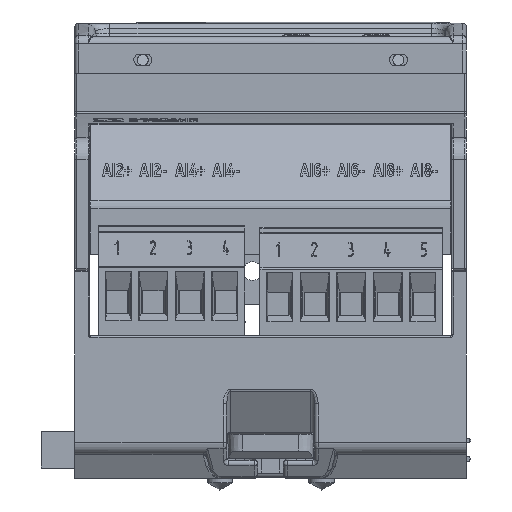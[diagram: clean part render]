
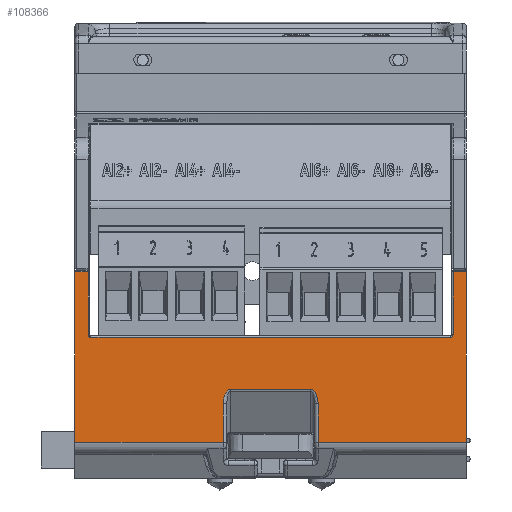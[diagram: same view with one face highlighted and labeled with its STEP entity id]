
A CAD part, front view. The second image highlights one B-rep face of the part: STEP entity #108366.
In plain terms, the highlighted planar face has unit normal (0, -1, 0).
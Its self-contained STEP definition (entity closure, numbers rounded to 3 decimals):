
#324 = CARTESIAN_POINT ( 'NONE',  ( 5.5, -56., -16.304 ) ) ;
#984 = CARTESIAN_POINT ( 'NONE',  ( -24.6, -56., -9.2 ) ) ;
#1779 = VERTEX_POINT ( 'NONE', #61976 ) ;
#2774 = LINE ( 'NONE', #150268, #117326 ) ;
#3222 = CARTESIAN_POINT ( 'NONE',  ( -26.8, -56., -23.574 ) ) ;
#3715 = CARTESIAN_POINT ( 'NONE',  ( 6.5, -56., 0. ) ) ;
#4629 = EDGE_CURVE ( 'NONE', #61108, #125118, #80584, .T. ) ;
#6344 = EDGE_CURVE ( 'NONE', #61108, #130030, #35579, .T. ) ;
#8492 = ORIENTED_EDGE ( 'NONE', *, *, #6344, .T. ) ;
#9884 = LINE ( 'NONE', #123537, #37713 ) ;
#12296 = VECTOR ( 'NONE', #140617, 1000. ) ;
#13818 = DIRECTION ( 'NONE',  ( 0., -1., 0. ) ) ;
#14090 = DIRECTION ( 'NONE',  ( 0., 0., -1. ) ) ;
#14570 = ORIENTED_EDGE ( 'NONE', *, *, #78349, .T. ) ;
#15312 = ORIENTED_EDGE ( 'NONE', *, *, #45716, .F. ) ;
#17577 = VECTOR ( 'NONE', #132928, 1000. ) ;
#19153 = CARTESIAN_POINT ( 'NONE',  ( -26.8, -56., -23.574 ) ) ;
#19378 = LINE ( 'NONE', #34671, #17577 ) ;
#19639 = LINE ( 'NONE', #125048, #128846 ) ;
#20397 = VECTOR ( 'NONE', #99365, 1000. ) ;
#27157 = LINE ( 'NONE', #134036, #56790 ) ;
#28576 = CARTESIAN_POINT ( 'NONE',  ( -6.5, -56., -23.574 ) ) ;
#29162 = DIRECTION ( 'NONE',  ( 0., 0., 1. ) ) ;
#29641 = CARTESIAN_POINT ( 'NONE',  ( 6.5, -56., -18.304 ) ) ;
#29775 = CARTESIAN_POINT ( 'NONE',  ( -26.8, -56., -23.574 ) ) ;
#31872 = LINE ( 'NONE', #3715, #122500 ) ;
#33827 = ORIENTED_EDGE ( 'NONE', *, *, #43273, .T. ) ;
#34671 = CARTESIAN_POINT ( 'NONE',  ( 26.8, -56., 0. ) ) ;
#35579 = LINE ( 'NONE', #3222, #61517 ) ;
#35714 = CARTESIAN_POINT ( 'NONE',  ( -26.8, -56., 0. ) ) ;
#36617 = DIRECTION ( 'NONE',  ( 0., 0., 1. ) ) ;
#37065 =( BOUNDED_CURVE ( )  B_SPLINE_CURVE ( 3, ( #63785, #146624, #64786, #29641 ),
 .UNSPECIFIED., .F., .F. ) 
 B_SPLINE_CURVE_WITH_KNOTS ( ( 4, 4 ),
 ( 0., 1.571 ),
 .UNSPECIFIED. ) 
 CURVE ( )  GEOMETRIC_REPRESENTATION_ITEM ( )  RATIONAL_B_SPLINE_CURVE ( ( 1., 0.805, 0.805, 1. ) ) 
 REPRESENTATION_ITEM ( '' )  );
#37426 = CARTESIAN_POINT ( 'NONE',  ( -24.6, -56., -8.8 ) ) ;
#37713 = VECTOR ( 'NONE', #76443, 1000. ) ;
#40021 = CARTESIAN_POINT ( 'NONE',  ( -26.8, -56., -0.2 ) ) ;
#42078 = LINE ( 'NONE', #82994, #93705 ) ;
#43273 = EDGE_CURVE ( 'NONE', #125284, #125118, #2774, .T. ) ;
#43738 = EDGE_CURVE ( 'NONE', #74207, #101975, #87314, .T. ) ;
#43932 = CARTESIAN_POINT ( 'NONE',  ( 26.8, -56., -0.2 ) ) ;
#45716 = EDGE_CURVE ( 'NONE', #46137, #101975, #112015, .T. ) ;
#46137 = VERTEX_POINT ( 'NONE', #96579 ) ;
#46290 = DIRECTION ( 'NONE',  ( -1., 0., 0. ) ) ;
#51857 = LINE ( 'NONE', #29775, #20397 ) ;
#56250 = ORIENTED_EDGE ( 'NONE', *, *, #95693, .T. ) ;
#56790 = VECTOR ( 'NONE', #73932, 1000. ) ;
#57982 = EDGE_LOOP ( 'NONE', ( #104245, #33827, #112537, #8492, #70012, #127395, #66134, #87483, #94064, #112310, #14570, #91600, #56250, #107437, #80607, #15312 ) ) ;
#58205 = AXIS2_PLACEMENT_3D ( 'NONE', #37426, #74053, #14090 ) ;
#61108 = VERTEX_POINT ( 'NONE', #19153 ) ;
#61517 = VECTOR ( 'NONE', #85270, 1000. ) ;
#61976 = CARTESIAN_POINT ( 'NONE',  ( 25., -56., -0.2 ) ) ;
#63034 = EDGE_CURVE ( 'NONE', #75373, #1779, #27157, .T. ) ;
#63785 = CARTESIAN_POINT ( 'NONE',  ( 5.5, -56., -16.304 ) ) ;
#64786 = CARTESIAN_POINT ( 'NONE',  ( 6.5, -56., -17.132 ) ) ;
#66134 = ORIENTED_EDGE ( 'NONE', *, *, #86845, .T. ) ;
#66424 = VERTEX_POINT ( 'NONE', #84477 ) ;
#68149 = EDGE_CURVE ( 'NONE', #130030, #106010, #134733, .T. ) ;
#68474 = DIRECTION ( 'NONE',  ( -1., 0., 0. ) ) ;
#68913 = EDGE_CURVE ( 'NONE', #46137, #125284, #42078, .T. ) ;
#70012 = ORIENTED_EDGE ( 'NONE', *, *, #68149, .T. ) ;
#72540 = VERTEX_POINT ( 'NONE', #324 ) ;
#73112 = AXIS2_PLACEMENT_3D ( 'NONE', #35714, #83099, #128799 ) ;
#73932 = DIRECTION ( 'NONE',  ( -1., 0., 0. ) ) ;
#74053 = DIRECTION ( 'NONE',  ( 0., -1., 0. ) ) ;
#74207 = VERTEX_POINT ( 'NONE', #134571 ) ;
#75043 = EDGE_CURVE ( 'NONE', #117610, #93782, #31872, .T. ) ;
#75179 = VERTEX_POINT ( 'NONE', #100108 ) ;
#75373 = VERTEX_POINT ( 'NONE', #43932 ) ;
#76443 = DIRECTION ( 'NONE',  ( 0., 0., -1. ) ) ;
#77619 =( BOUNDED_CURVE ( )  B_SPLINE_CURVE ( 3, ( #137367, #149215, #79247, #78757 ),
 .UNSPECIFIED., .F., .T. ) 
 B_SPLINE_CURVE_WITH_KNOTS ( ( 4, 4 ),
 ( 4.712, 6.283 ),
 .UNSPECIFIED. ) 
 CURVE ( )  GEOMETRIC_REPRESENTATION_ITEM ( )  RATIONAL_B_SPLINE_CURVE ( ( 1., 0.805, 0.805, 1. ) ) 
 REPRESENTATION_ITEM ( '' )  );
#78237 = CARTESIAN_POINT ( 'NONE',  ( -5.5, -56., -16.304 ) ) ;
#78349 = EDGE_CURVE ( 'NONE', #66424, #75373, #19378, .T. ) ;
#78757 = CARTESIAN_POINT ( 'NONE',  ( -5.5, -56., -16.304 ) ) ;
#79247 = CARTESIAN_POINT ( 'NONE',  ( -6.086, -56., -16.304 ) ) ;
#80584 = LINE ( 'NONE', #142173, #12296 ) ;
#80607 = ORIENTED_EDGE ( 'NONE', *, *, #43738, .T. ) ;
#81080 = EDGE_CURVE ( 'NONE', #72540, #117610, #37065, .T. ) ;
#82994 = CARTESIAN_POINT ( 'NONE',  ( -25., -56., 0. ) ) ;
#83099 = DIRECTION ( 'NONE',  ( 0., 1., 0. ) ) ;
#84477 = CARTESIAN_POINT ( 'NONE',  ( 26.8, -56., -23.574 ) ) ;
#85270 = DIRECTION ( 'NONE',  ( 1., 0., 0. ) ) ;
#86845 = EDGE_CURVE ( 'NONE', #147384, #72540, #19639, .T. ) ;
#87314 = LINE ( 'NONE', #113964, #133844 ) ;
#87395 = CARTESIAN_POINT ( 'NONE',  ( -25., -56., -0.2 ) ) ;
#87483 = ORIENTED_EDGE ( 'NONE', *, *, #81080, .T. ) ;
#91600 = ORIENTED_EDGE ( 'NONE', *, *, #63034, .T. ) ;
#92978 = EDGE_CURVE ( 'NONE', #106010, #147384, #77619, .T. ) ;
#93705 = VECTOR ( 'NONE', #36617, 1000. ) ;
#93782 = VERTEX_POINT ( 'NONE', #142308 ) ;
#94064 = ORIENTED_EDGE ( 'NONE', *, *, #75043, .T. ) ;
#94589 = FACE_OUTER_BOUND ( 'NONE', #57982, .T. ) ;
#94873 = DIRECTION ( 'NONE',  ( 0., 0., -1. ) ) ;
#94910 = AXIS2_PLACEMENT_3D ( 'NONE', #119818, #13818, #94873 ) ;
#95693 = EDGE_CURVE ( 'NONE', #1779, #75179, #9884, .T. ) ;
#96579 = CARTESIAN_POINT ( 'NONE',  ( -25., -56., -8.8 ) ) ;
#99365 = DIRECTION ( 'NONE',  ( 1., 0., 0. ) ) ;
#100108 = CARTESIAN_POINT ( 'NONE',  ( 25., -56., -8.8 ) ) ;
#101953 = EDGE_CURVE ( 'NONE', #74207, #75179, #112041, .T. ) ;
#101975 = VERTEX_POINT ( 'NONE', #984 ) ;
#104245 = ORIENTED_EDGE ( 'NONE', *, *, #68913, .T. ) ;
#106010 = VERTEX_POINT ( 'NONE', #147144 ) ;
#106705 = VECTOR ( 'NONE', #29162, 1000. ) ;
#107437 = ORIENTED_EDGE ( 'NONE', *, *, #101953, .F. ) ;
#108366 = ADVANCED_FACE ( 'NONE', ( #94589 ), #153108, .F. ) ;
#112015 = CIRCLE ( 'NONE', #58205, 0.4 ) ;
#112041 = CIRCLE ( 'NONE', #94910, 0.4 ) ;
#112310 = ORIENTED_EDGE ( 'NONE', *, *, #142443, .T. ) ;
#112537 = ORIENTED_EDGE ( 'NONE', *, *, #4629, .F. ) ;
#113964 = CARTESIAN_POINT ( 'NONE',  ( -24.8, -56., -9.2 ) ) ;
#117326 = VECTOR ( 'NONE', #68474, 1000. ) ;
#117610 = VERTEX_POINT ( 'NONE', #130094 ) ;
#119818 = CARTESIAN_POINT ( 'NONE',  ( 24.6, -56., -8.8 ) ) ;
#119984 = DIRECTION ( 'NONE',  ( 0., 0., -1. ) ) ;
#122500 = VECTOR ( 'NONE', #119984, 1000. ) ;
#123537 = CARTESIAN_POINT ( 'NONE',  ( 25., -56., 0. ) ) ;
#125048 = CARTESIAN_POINT ( 'NONE',  ( -26.8, -56., -16.304 ) ) ;
#125118 = VERTEX_POINT ( 'NONE', #40021 ) ;
#125284 = VERTEX_POINT ( 'NONE', #87395 ) ;
#125346 = CARTESIAN_POINT ( 'NONE',  ( -6.5, -56., 0. ) ) ;
#127395 = ORIENTED_EDGE ( 'NONE', *, *, #92978, .T. ) ;
#128799 = DIRECTION ( 'NONE',  ( 0., 0., -1. ) ) ;
#128846 = VECTOR ( 'NONE', #136973, 1000. ) ;
#130030 = VERTEX_POINT ( 'NONE', #28576 ) ;
#130094 = CARTESIAN_POINT ( 'NONE',  ( 6.5, -56., -18.304 ) ) ;
#132928 = DIRECTION ( 'NONE',  ( 0., 0., 1. ) ) ;
#133844 = VECTOR ( 'NONE', #46290, 1000. ) ;
#134036 = CARTESIAN_POINT ( 'NONE',  ( -26.8, -56., -0.2 ) ) ;
#134571 = CARTESIAN_POINT ( 'NONE',  ( 24.6, -56., -9.2 ) ) ;
#134733 = LINE ( 'NONE', #125346, #106705 ) ;
#136973 = DIRECTION ( 'NONE',  ( 1., 0., 0. ) ) ;
#137367 = CARTESIAN_POINT ( 'NONE',  ( -6.5, -56., -18.304 ) ) ;
#140617 = DIRECTION ( 'NONE',  ( 0., 0., 1. ) ) ;
#142173 = CARTESIAN_POINT ( 'NONE',  ( -26.8, -56., 0. ) ) ;
#142308 = CARTESIAN_POINT ( 'NONE',  ( 6.5, -56., -23.574 ) ) ;
#142443 = EDGE_CURVE ( 'NONE', #93782, #66424, #51857, .T. ) ;
#146624 = CARTESIAN_POINT ( 'NONE',  ( 6.086, -56., -16.304 ) ) ;
#147144 = CARTESIAN_POINT ( 'NONE',  ( -6.5, -56., -18.304 ) ) ;
#147384 = VERTEX_POINT ( 'NONE', #78237 ) ;
#149215 = CARTESIAN_POINT ( 'NONE',  ( -6.5, -56., -17.132 ) ) ;
#150268 = CARTESIAN_POINT ( 'NONE',  ( -26.8, -56., -0.2 ) ) ;
#153108 = PLANE ( 'NONE',  #73112 ) ;
